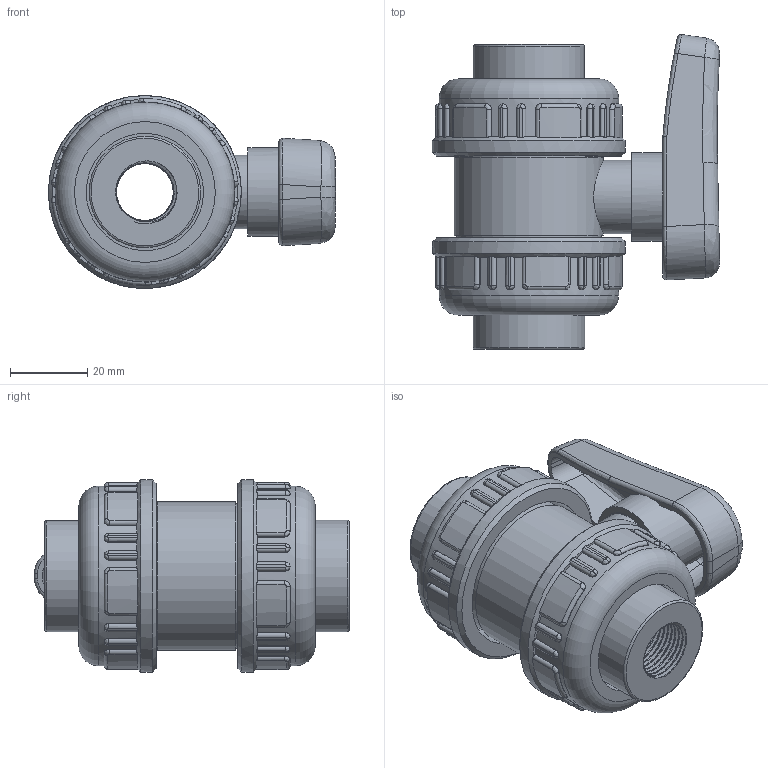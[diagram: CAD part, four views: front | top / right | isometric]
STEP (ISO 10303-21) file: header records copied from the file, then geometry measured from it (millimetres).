
FILE_DESCRIPTION(/* description */ (''),/* implementation_level */ '2;1');
FILE_NAME(/* name */ 'C:\Users\POLYPIPE\Desktop\DATASET INVENTOR\LIBRERIA EFFAST\3D_VALVOLE\3D_VALVOLE A SFERA\3D_BV\3D_BERBVE\3D_BERBVE016A.stp',/* time_stamp */ '2018-01-24T09:31:20+01:00',/* author */ ('POLYPIPE'),/* organization */ (''),/* preprocessor_version */ 'ST-DEVELOPER v16.1',/* originating_system */ 'Autodesk Inventor 2016',/* authorisation */ '');
FILE_SCHEMA (('CONFIG_CONTROL_DESIGN'));
Length unit declared in the file: centimetre
Products named in the file (1): 3D_BERBVE016A
Bounding box: 74.42 x 81.61 x 50 mm (x, y, z)
Volume: 97925.5 mm3; surface area: 38820.8 mm2
Topology: 2 solids, 2 shells, 533 faces, 1373 edges, 862 vertices
Faces by surface type: plane 175, bspline 172, cylinder 166, torus 16, cone 4
Full cylindrical faces by diameter (mm): 12 x1, 14.7 x2, 14.95 x2, 15 x1, 18.1 x1, 19 x1, 23 x1, 25.6 x1, 28.8 x1, 28.9 x2, 30.4 x2, 35.5 x2, 37.5 x2, 38.6 x1, 40.4 x2, 46.5 x2, 50 x2
Entity records: 66836 total; most frequent: CARTESIAN_POINT 54303, ORIENTED_EDGE 2660, DIRECTION 2189, EDGE_CURVE 1330, VERTEX_POINT 851, AXIS2_PLACEMENT_3D 838, EDGE_LOOP 589, STYLED_ITEM 535
